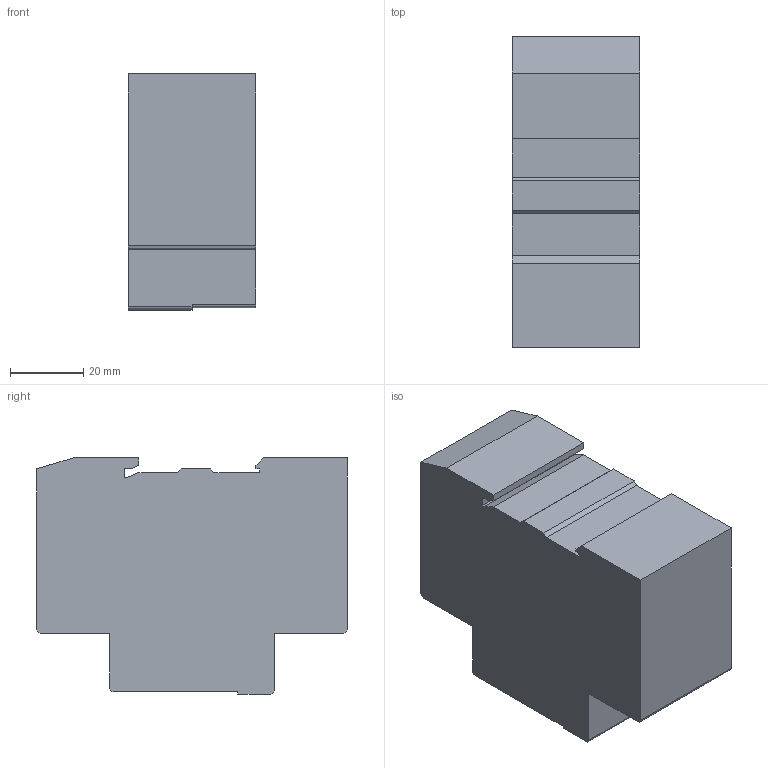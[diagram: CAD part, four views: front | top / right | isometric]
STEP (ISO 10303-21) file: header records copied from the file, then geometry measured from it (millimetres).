
FILE_DESCRIPTION (( 'STEP AP214' ), '1' );
FILE_NAME ('OptiDin MK63-25.STEP', '2015-05-15T08:17:57', ( '' ), ( '' ), 'SwSTEP 2.0', 'SolidWorks 2012', '' );
FILE_SCHEMA (( 'AUTOMOTIVE_DESIGN' ));
Length unit declared in the file: millimetre
Products named in the file (4): Âèíò_ìàëåíüêèé; Âèíò_ñðåäíèé; OptiDin MK63-25
Assembly tree (11 placements, depth 2):
  OptiDin MK63-25
    Âèíò_ìàëåíüêèé
    Âèíò_ñðåäíèé  x8
    Âèíò_ìàëåíüêèé  x2
Bounding box: 35 x 85 x 64.6 mm (x, y, z)
Volume: 158723.3 mm3; surface area: 26652.4 mm2
Topology: 11 solids, 11 shells, 520 faces, 1341 edges, 874 vertices
Faces by surface type: plane 395, cylinder 85, torus 40
Entity records: 7833 total; most frequent: CARTESIAN_POINT 3744, DIRECTION 819, ORIENTED_EDGE 806, EDGE_CURVE 403, AXIS2_PLACEMENT_3D 279, VERTEX_POINT 262, VECTOR 261, LINE 261
